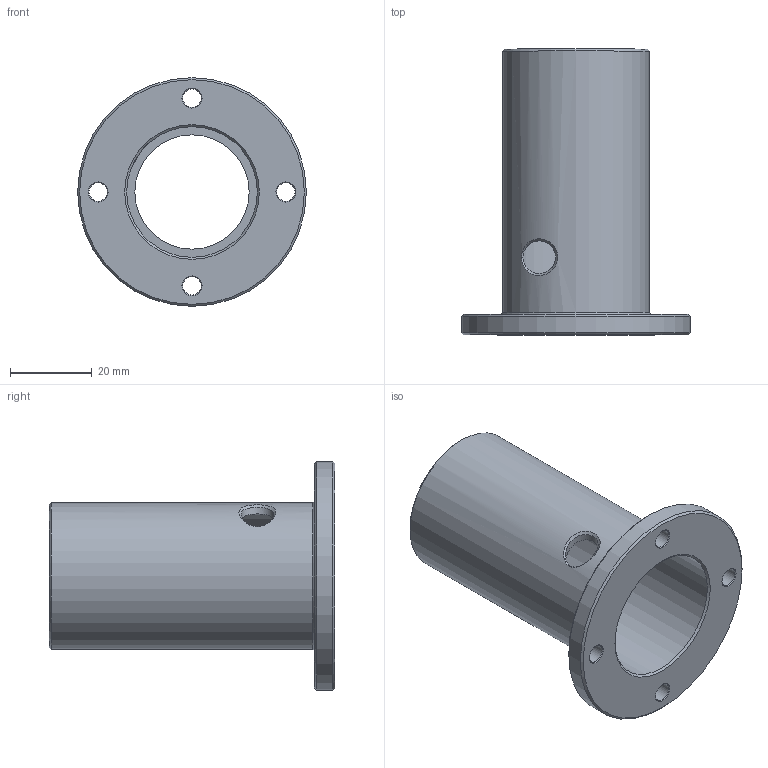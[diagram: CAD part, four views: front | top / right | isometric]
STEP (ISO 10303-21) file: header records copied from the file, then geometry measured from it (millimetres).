
FILE_DESCRIPTION(/* description */ (''),/* implementation_level */ '2;1');
FILE_NAME(/* name */ 'C:\Users\Daviddk\Dropbox\Fräse\Kamp und Kötter\Artikel\Lagerflansch Set\CAD-Dateien\Lagerflansch.stp',/* time_stamp */ '2015-03-22T18:23:51+01:00',/* author */ ('Daviddk'),/* organization */ (''),/* preprocessor_version */ 'ST-DEVELOPER v15.6',/* originating_system */ 'Autodesk Inventor 2015',/* authorisation */ '');
FILE_SCHEMA (('AUTOMOTIVE_DESIGN { 1 0 10303 214 3 1 1 }'));
Length unit declared in the file: millimetre
Products named in the file (1): Lagerflansch
Bounding box: 56 x 70 x 56 mm (x, y, z)
Volume: 22599.2 mm3; surface area: 18753.9 mm2
Topology: 1 solids, 1 shells, 30 faces, 64 edges, 39 vertices
Faces by surface type: cone 13, cylinder 10, plane 5, bspline 1, torus 1
Full cylindrical faces by diameter (mm): 4.5 x4, 8 x1, 28 x1, 32 x2, 36 x1, 56 x1
Entity records: 861 total; most frequent: CARTESIAN_POINT 268, DIRECTION 125, ORIENTED_EDGE 72, EDGE_LOOP 69, AXIS2_PLACEMENT_3D 62, FACE_BOUND 39, EDGE_CURVE 36, VERTEX_POINT 35
